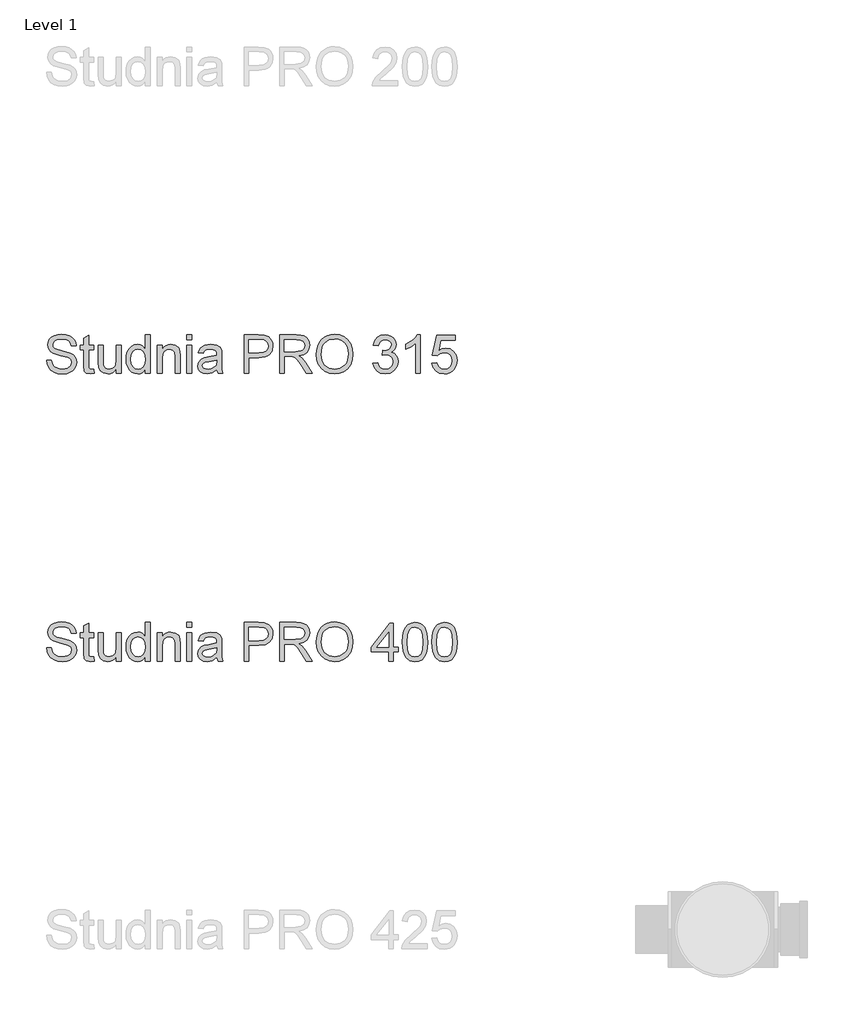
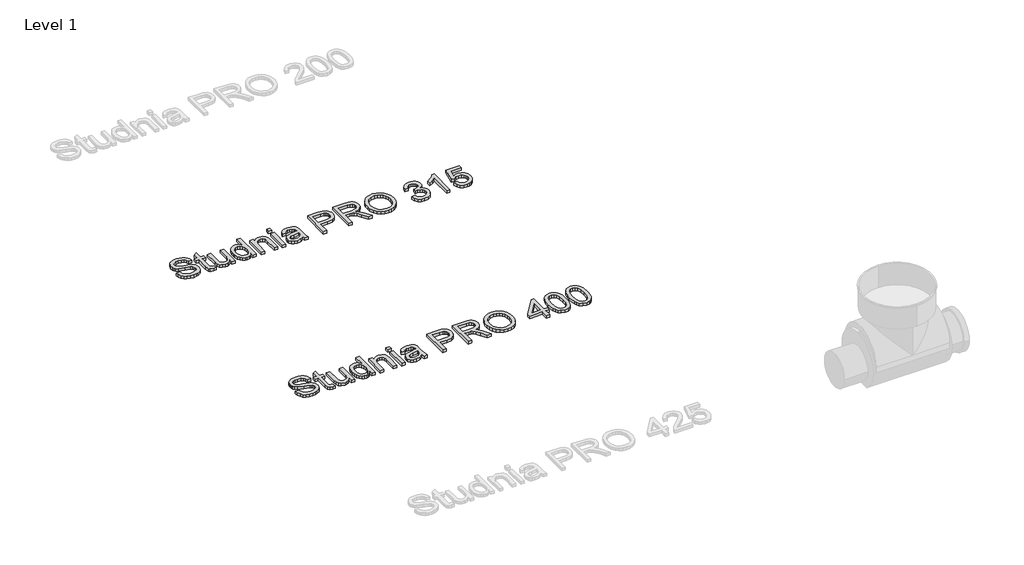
# One storey, part 7 of 8: 2 proxies.
"""IFC4 building model written with IfcOpenShell, lengths in millimetres."""

from ifc_helpers import new_model, si_unit, origin, origin_with_axes, place, context, project, spatial, polyline, outline, extrude, element, save

model = new_model("IFC4")

# Units and contexts
model_context = context("Model", 3, world=origin())
ifc_project = project(units=[si_unit("LENGTHUNIT", "METRE", prefix="MILLI")], contexts=[model_context])

# Site, building, storey
site = spatial("IfcSite", under=ifc_project)
building = spatial("IfcBuilding", under=site)
storey = spatial("IfcBuildingStorey", under=building, Name="Level 1", Elevation=0.0)

# Proxies
placement = place(None, origin())
element("IfcBuildingElementProxy", 1, Name="200mm Arial", ObjectType="200mm Arial", at=placement, inside=storey, context=model_context, shape_type="SweptSolid", body=[
    extrude(outline(polyline([(-16840.1100864, -1744.8858597), (-16814.9960089, -1744.8858597), (-16806.902605, -1770.0244627), (-16798.7724129, -1778.9149443), (-16787.1350791, -1785.9169649), (-16772.9103087, -1790.4603076), (-16757.0178065, -1791.9747551), (-16730.7755575, -1787.3884929), (-16713.8284602, -1774.7824032), (-16708.2611794, -1757.9334078), (-16712.4305087, -1742.2616348), (-16718.7826044, -1736.0628232), (-16729.5002332, -1730.857293), (-16766.0677036, -1721.2678356), (-16805.431077, -1708.8824751), (-16817.9329335, -1700.433452), (-16826.7927582, -1690.1940698), (-16832.0718649, -1678.3850577), (-16833.8315671, -1665.227145), (-16831.6549319, -1650.5179966), (-16825.1250265, -1636.8021295), (-16814.4135291, -1625.1770585), (-16799.6921179, -1616.7402981), (-16782.0215194, -1611.6083442), (-16762.46246, -1609.897693), (-16741.2724571, -1611.688052), (-16722.7312045, -1617.0591291), (-16707.5008899, -1625.9005598), (-16696.2437009, -1638.1019793), (-16689.1190529, -1652.9030982), (-16686.2863615, -1669.5436271), (-16711.4004391, -1669.5436271), (-16716.0112267, -1654.5585672), (-16725.6252095, -1643.7428365), (-16740.6470577, -1637.194537), (-16761.4814413, -1635.0117705), (-16782.8063343, -1637.1700115), (-16797.435775, -1643.6447347), (-16805.8970609, -1653.1728783), (-16808.7174895, -1664.491381), (-16806.718664, -1674.1421521), (-16800.7221875, -1681.9044622), (-16786.5464679, -1688.8451691), (-16759.7156078, -1695.9330289), (-16715.2754628, -1708.5391186), (-16700.9587218, -1717.6503293), (-16690.9707256, -1728.8952557), (-16685.1030078, -1742.1512702), (-16683.1471018, -1757.2957457), (-16685.3973134, -1772.7774463), (-16692.147948, -1787.339442), (-16703.1230942, -1799.8719553), (-16718.0468404, -1809.2652089), (-16735.9933504, -1815.1329267), (-16756.0367878, -1817.0888326), (-16780.6419619, -1814.9796425), (-16800.8938658, -1808.6520722), (-16817.0254912, -1798.0815962), (-16829.2698303, -1783.2436891), (-16837.1302423, -1765.1684204), (-16840.1100864, -1744.8858597)])), origin_with_axes(), (0.0, 0.0, 1.0), 20.0),
    extrude(outline(polyline([(-16595.2478305, -1793.0048247), (-16592.1085708, -1814.6853369), (-16610.895078, -1817.0888326), (-16631.9379281, -1812.9195034), (-16642.4348277, -1801.9811454), (-16645.4759855, -1773.4825535), (-16645.4759855, -1691.518445), (-16664.3115437, -1691.518445), (-16664.3115437, -1666.4043674), (-16645.4759855, -1666.4043674), (-16645.4759855, -1630.5481356), (-16620.361908, -1615.7838049), (-16620.361908, -1666.4043674), (-16595.2478305, -1666.4043674), (-16595.2478305, -1691.518445), (-16620.361908, -1691.518445), (-16620.361908, -1772.7467895), (-16619.0375328, -1785.6962357), (-16614.7455762, -1790.2824979), (-16606.1861884, -1791.9747551), (-16595.2478305, -1793.0048247)])), origin_with_axes(), (0.0, 0.0, 1.0), 20.0),
    extrude(outline(polyline([(-16475.9559622, -1813.949573), (-16475.9559622, -1788.5902408), (-16485.0426474, -1801.0583747), (-16495.6253862, -1809.9641847), (-16507.7041783, -1815.3076707), (-16521.279024, -1817.0888326), (-16544.8970481, -1812.0856375), (-16561.1819577, -1799.5285987), (-16568.6622249, -1781.0363971), (-16570.1337529, -1757.6881532), (-16570.1337529, -1666.4043674), (-16545.0196754, -1666.4043674), (-16545.0196754, -1745.8668784), (-16543.4990965, -1771.4714652), (-16539.8386706, -1780.0124589), (-16533.5662826, -1786.5055761), (-16514.8533518, -1791.9747551), (-16493.8840781, -1786.3829488), (-16485.5270254, -1779.779467), (-16480.0271896, -1771.1526342), (-16475.9559622, -1743.1690771), (-16475.9559622, -1666.4043674), (-16450.8418846, -1666.4043674), (-16450.8418846, -1813.949573), (-16475.9559622, -1813.949573)])), origin_with_axes(), (0.0, 0.0, 1.0), 20.0),
    extrude(outline(polyline([(-16325.2714969, -1813.949573), (-16325.2714969, -1790.2579725), (-16332.7854867, -1801.9964738), (-16341.8875004, -1810.3811176), (-16352.577538, -1815.4119039), (-16364.8555996, -1817.0888326), (-16381.0914583, -1814.6608115), (-16395.9538909, -1807.376748), (-16408.5354552, -1795.7455456), (-16417.9287088, -1780.2761077), (-16423.7780325, -1761.5938337), (-16425.7278071, -1740.324123), (-16423.9313167, -1719.3180611), (-16418.5418454, -1700.3476128), (-16409.5655248, -1684.4918989), (-16397.008486, -1672.8300396), (-16381.821091, -1665.6563407), (-16364.9537015, -1663.2651077), (-16352.6664428, -1664.975759), (-16341.8016612, -1670.1077128), (-16325.2714969, -1687.8886759), (-16325.2714969, -1613.0369527), (-16300.1574194, -1613.0369527), (-16300.1574194, -1813.949573), (-16325.2714969, -1813.949573)]), holes=[polyline([(-16400.6137295, -1740.2260211), (-16397.7810382, -1762.9427343), (-16389.2829641, -1779.0988853), (-16376.9343918, -1788.7557877), (-16362.5502058, -1791.9747551), (-16348.1721511, -1788.9029404), (-16336.1362785, -1779.6874965), (-16327.9876923, -1764.1567449), (-16325.2714969, -1742.1390075), (-16328.0367433, -1718.0672623), (-16336.3324823, -1701.3776824), (-16348.6749232, -1691.6288096), (-16363.5802754, -1688.3791853), (-16378.1116142, -1691.5000509), (-16390.0187281, -1700.8626476), (-16397.9649792, -1716.9452222), (-16400.6137295, -1740.2260211)])]), origin_with_axes(), (0.0, 0.0, 1.0), 20.0),
    extrude(outline(polyline([(-16262.4863031, -1813.949573), (-16262.4863031, -1666.4043674), (-16237.3722255, -1666.4043674), (-16237.3722255, -1687.0057592), (-16228.6472909, -1676.6192242), (-16218.1687854, -1669.2002706), (-16205.9367091, -1664.7488984), (-16191.9510619, -1663.2651077), (-16168.2349359, -1668.0475737), (-16152.0481281, -1680.6046124), (-16144.51881, -1699.0722886), (-16143.1944348, -1723.3525003), (-16143.1944348, -1813.949573), (-16168.3085123, -1813.949573), (-16168.3085123, -1726.7370146), (-16171.2025174, -1704.5169421), (-16181.4296368, -1692.7692437), (-16198.6710397, -1688.3791853), (-16213.3801881, -1690.8439946), (-16225.9188328, -1698.2384227), (-16234.5088774, -1712.5245069), (-16237.3722255, -1735.6642844), (-16237.3722255, -1813.949573), (-16262.4863031, -1813.949573)])), origin_with_axes(), (0.0, 0.0, 1.0), 20.0),
    extrude(outline(polyline([(-16108.6625782, -1638.1510302), (-16108.6625782, -1613.0369527), (-16083.5485006, -1613.0369527), (-16083.5485006, -1638.1510302), (-16108.6625782, -1638.1510302)])), origin_with_axes(), (0.0, 0.0, 1.0), 20.0),
    extrude(outline(polyline([(-16108.6625782, -1813.949573), (-16108.6625782, -1666.4043674), (-16083.5485006, -1666.4043674), (-16083.5485006, -1813.949573), (-16108.6625782, -1813.949573)])), origin_with_axes(), (0.0, 0.0, 1.0), 20.0),
    extrude(outline(polyline([(-15951.6995936, -1795.1140148), (-15976.0533816, -1812.1346884), (-16002.9578182, -1817.0888326), (-16023.945486, -1814.1089885), (-16039.4271867, -1805.169456), (-16048.9737245, -1791.5946104), (-16052.1559037, -1774.7088268), (-16047.3489123, -1754.8431991), (-16034.7182971, -1740.4222249), (-16017.1335378, -1732.1816682), (-15995.4039746, -1728.4047463), (-15951.8467464, -1719.7717822), (-15951.6995936, -1714.1799759), (-15953.4286389, -1702.9718377), (-15958.6157751, -1695.6387233), (-15970.2163207, -1690.1940698), (-15986.378603, -1688.3791853), (-16001.3391374, -1689.5870645), (-16011.7869861, -1693.2107021), (-16018.9116341, -1699.9122858), (-16023.9025665, -1710.3540031), (-16049.016644, -1707.2147434), (-16038.1518624, -1682.6892771), (-16028.8934989, -1674.4364576), (-16016.2751464, -1668.3173538), (-15983.1412414, -1663.2651077), (-15952.7051377, -1667.7287426), (-15935.5127858, -1678.9368807), (-15927.8117893, -1695.9820798), (-15926.585516, -1717.9568977), (-15926.585516, -1749.2023418), (-15925.3101918, -1792.8331464), (-15920.3069966, -1813.949573), (-15945.4210742, -1813.949573), (-15951.6995936, -1795.1140148)]), holes=[polyline([(-15951.6995936, -1744.8858597), (-15992.215664, -1752.5868562), (-16013.8225998, -1756.6580836), (-16023.6082609, -1763.2799595), (-16027.0418262, -1772.9429932), (-16025.1717594, -1780.4109977), (-16019.5615589, -1786.5301016), (-16010.3338522, -1790.6135917), (-15997.6112666, -1791.9747551), (-15984.1222601, -1790.4725703), (-15972.2028834, -1785.9660159), (-15955.8198719, -1771.4224143), (-15951.8467464, -1751.998245), (-15951.6995936, -1744.8858597)])]), origin_with_axes(), (0.0, 0.0, 1.0), 20.0),
    extrude(outline(polyline([(-15810.4329074, -1813.949573), (-15810.4329074, -1613.0369527), (-15735.9735916, -1613.0369527), (-15705.9544208, -1614.949939), (-15681.5515818, -1624.3431926), (-15672.6794943, -1632.6695885), (-15665.732656, -1643.767362), (-15661.2444956, -1656.8578296), (-15659.7484422, -1671.1623079), (-15663.7890128, -1694.8416456), (-15675.9107245, -1714.5723833), (-15685.6182107, -1722.3408248), (-15698.5783868, -1727.8897115), (-15734.2568089, -1732.328821), (-15785.3188299, -1732.328821), (-15785.3188299, -1813.949573), (-15810.4329074, -1813.949573)]), holes=[polyline([(-15785.3188299, -1707.2147434), (-15732.785281, -1707.2147434), (-15710.5161575, -1704.9093496), (-15695.8008777, -1697.9931681), (-15687.5971092, -1686.8953946), (-15684.8625197, -1672.0452247), (-15686.4750691, -1660.7635102), (-15691.3127174, -1651.2476292), (-15698.7745905, -1644.086193), (-15708.2598146, -1639.8678128), (-15733.3738922, -1638.1510302), (-15785.3188299, -1638.1510302), (-15785.3188299, -1707.2147434)])]), origin_with_axes(), (0.0, 0.0, 1.0), 20.0),
    extrude(outline(polyline([(-15625.2165856, -1813.949573), (-15625.2165856, -1613.0369527), (-15538.6416894, -1613.0369527), (-15515.3731532, -1614.3919847), (-15498.44445, -1618.4570807), (-15486.0713523, -1625.9618734), (-15476.4696322, -1637.6359954), (-15470.3076088, -1652.1121519), (-15468.253601, -1668.0230482), (-15471.6565094, -1687.8150995), (-15481.8652348, -1704.2226365), (-15499.1863454, -1716.2523778), (-15523.9264096, -1722.9110419), (-15509.6525882, -1733.6531961), (-15489.2964511, -1759.5030377), (-15455.7946641, -1813.949573), (-15484.979969, -1813.949573), (-15511.1241161, -1772.3053311), (-15530.0087252, -1744.7387069), (-15543.2770025, -1731.7156843), (-15555.2209046, -1726.9332184), (-15569.7890316, -1726.0503016), (-15600.102508, -1726.0503016), (-15600.102508, -1813.949573), (-15625.2165856, -1813.949573)]), holes=[polyline([(-15600.102508, -1700.936224), (-15543.8901392, -1700.936224), (-15515.219869, -1697.3800314), (-15505.7898272, -1692.756981), (-15498.9349594, -1686.000215), (-15493.3676785, -1668.9550159), (-15496.0225602, -1656.7045455), (-15503.9872054, -1646.8330453), (-15517.6908098, -1640.321534), (-15537.5625689, -1638.1510302), (-15600.102508, -1638.1510302), (-15600.102508, -1700.936224)])]), origin_with_axes(), (0.0, 0.0, 1.0), 20.0),
    extrude(outline(polyline([(-15433.7217444, -1716.1420132), (-15432.0478813, -1692.5761057), (-15427.026292, -1671.7141309), (-15418.6569767, -1653.5560887), (-15406.9399351, -1638.1019793), (-15392.5772089, -1625.762604), (-15376.2708394, -1616.9487645), (-15358.0208268, -1611.6604609), (-15337.8271709, -1609.897693), (-15311.4745574, -1613.2086309), (-15287.8442705, -1623.1414448), (-15268.2238975, -1638.9971588), (-15253.9010251, -1660.0767971), (-15245.1454336, -1685.3625529), (-15242.2269031, -1713.8366193), (-15245.2987178, -1742.6908305), (-15254.5141618, -1768.3322056), (-15269.3643316, -1789.4486321), (-15289.340324, -1804.7279976), (-15312.7682757, -1813.9986239), (-15337.9743237, -1817.0888326), (-15364.7316075, -1813.6736615), (-15388.4967844, -1803.4281479), (-15408.0681066, -1787.2781283), (-15422.2438261, -1766.149439), (-15430.8522648, -1741.8385705), (-15433.7217444, -1716.1420132)]), holes=[polyline([(-15408.6076668, -1716.3872678), (-15403.5860776, -1747.816653), (-15388.5213099, -1771.7657708), (-15365.8781731, -1786.922509), (-15338.1214765, -1791.9747551), (-15309.9601098, -1786.8734581), (-15287.2801848, -1771.5695671), (-15278.556783, -1760.2970496), (-15272.3257817, -1746.8846852), (-15267.3409807, -1713.6404156), (-15269.4746962, -1691.4080804), (-15275.875843, -1672.1923775), (-15286.3788739, -1656.4776849), (-15300.8182422, -1644.7483806), (-15318.2374547, -1637.445923), (-15337.6800181, -1635.0117705), (-15364.6948193, -1639.7022659), (-15387.6629186, -1653.7737523), (-15396.8262459, -1664.7228401), (-15403.3714798, -1678.808122), (-15408.6076668, -1716.3872678)])]), origin_with_axes(), (0.0, 0.0, 1.0), 20.0),
    extrude(outline(polyline([(-15138.6313333, -1760.5821582), (-15113.5172558, -1757.4428985), (-15107.8947926, -1773.2250361), (-15099.6603673, -1783.8813512), (-15088.4093096, -1789.9514041), (-15073.7369493, -1791.9747551), (-15056.520072, -1789.1911147), (-15043.2272692, -1780.8401934), (-15034.7291951, -1768.3812565), (-15031.8965038, -1753.2735692), (-15034.7046697, -1738.9323028), (-15043.1291673, -1727.3011004), (-15055.8824098, -1719.5939726), (-15071.6768102, -1717.02493), (-15089.286095, -1719.7717822), (-15086.4901918, -1694.6577047), (-15082.4680154, -1694.9520102), (-15067.4216418, -1693.1493885), (-15053.9694235, -1687.7415231), (-15044.478068, -1678.5935242), (-15041.3142828, -1665.5705016), (-15043.6074139, -1654.7241141), (-15050.4868072, -1645.925603), (-15060.9837068, -1640.0946734), (-15074.1293568, -1638.1510302), (-15087.2995322, -1640.1130675), (-15098.066212, -1645.9991794), (-15105.9266239, -1655.809366), (-15110.3779961, -1669.5436271), (-15135.4920736, -1666.4043674), (-15128.0976455, -1643.8532011), (-15114.9397328, -1627.0164685), (-15096.9380405, -1616.5318316), (-15075.0122736, -1613.0369527), (-15059.2240046, -1614.7598667), (-15044.7233227, -1619.9286087), (-15032.4973777, -1628.0833263), (-15023.5333197, -1638.7641669), (-15018.0334839, -1651.0698196), (-15016.2002053, -1664.0989736), (-15017.9415134, -1676.2390794), (-15023.1654377, -1687.2510138), (-15031.7984019, -1696.6320047), (-15043.7668295, -1703.87928), (-15028.0460055, -1710.2313758), (-15016.396409, -1721.0471064), (-15009.1859219, -1735.7378608), (-15006.7824262, -1753.7150276), (-15011.5894176, -1778.191443), (-15026.0103918, -1798.645682), (-15047.7767432, -1812.478045), (-15074.6198661, -1817.0888326), (-15098.9000778, -1813.1524953), (-15118.6676037, -1801.3434833), (-15132.4141276, -1783.2804773), (-15138.6313333, -1760.5821582)])), origin_with_axes(), (0.0, 0.0, 1.0), 20.0),
    extrude(outline(polyline([(-14890.6298176, -1813.949573), (-14915.7438951, -1813.949573), (-14915.7438951, -1657.3789958), (-14939.5335975, -1674.3260931), (-14965.9720502, -1687.0057592), (-14965.9720502, -1663.2651077), (-14929.1593252, -1639.769711), (-14915.6887128, -1626.1948653), (-14906.8166254, -1613.0369527), (-14890.6298176, -1613.0369527), (-14890.6298176, -1813.949573)])), origin_with_axes(), (0.0, 0.0, 1.0), 20.0),
    extrude(outline(polyline([(-14830.9838835, -1760.5821582), (-14805.8698059, -1757.4428985), (-14801.2590182, -1772.5199289), (-14793.2146653, -1783.3172655), (-14781.7735352, -1789.8103827), (-14766.9724163, -1791.9747551), (-14748.970724, -1788.9642541), (-14735.4817175, -1779.9327511), (-14727.0572198, -1765.9225785), (-14724.2490539, -1747.9760685), (-14726.8794102, -1731.0780222), (-14734.770479, -1718.1531014), (-14747.983574, -1709.9493329), (-14766.5800088, -1707.2147434), (-14788.6284031, -1711.5802764), (-14802.7305462, -1722.9110419), (-14827.8446238, -1719.7717822), (-14805.8698059, -1616.1762123), (-14708.5527555, -1616.1762123), (-14708.5527555, -1641.2902899), (-14785.5627198, -1641.2902899), (-14796.304874, -1696.619742), (-14778.3644954, -1685.7304349), (-14759.5657255, -1682.1006659), (-14736.1009855, -1686.601089), (-14716.6216339, -1700.1023582), (-14703.5066408, -1720.6792244), (-14699.1349764, -1746.4064386), (-14703.0713137, -1771.5205162), (-14714.8803258, -1793.0048247), (-14725.3159117, -1803.5415782), (-14737.4928057, -1811.0678307), (-14751.4110079, -1815.5835821), (-14767.0705182, -1817.0888326), (-14791.7370059, -1813.2199403), (-14811.3880358, -1801.6132634), (-14824.8586482, -1783.6177025), (-14830.9838835, -1760.5821582)])), origin_with_axes(), (0.0, 0.0, 1.0), 20.0),
])
element("IfcBuildingElementProxy", 2, Name="200mm Arial", ObjectType="200mm Arial", at=placement, inside=storey, context=model_context, shape_type="SweptSolid", body=[
    extrude(outline(polyline([(-16840.1100864, -3244.8858597), (-16814.9960089, -3244.8858597), (-16806.902605, -3270.0244627), (-16798.7724129, -3278.9149443), (-16787.1350791, -3285.9169649), (-16772.9103087, -3290.4603076), (-16757.0178065, -3291.9747551), (-16730.7755575, -3287.3884929), (-16713.8284602, -3274.7824032), (-16708.2611794, -3257.9334078), (-16712.4305087, -3242.2616348), (-16718.7826044, -3236.0628232), (-16729.5002332, -3230.857293), (-16766.0677036, -3221.2678356), (-16805.431077, -3208.8824751), (-16817.9329335, -3200.433452), (-16826.7927582, -3190.1940698), (-16832.0718649, -3178.3850577), (-16833.8315671, -3165.227145), (-16831.6549319, -3150.5179966), (-16825.1250265, -3136.8021295), (-16814.4135291, -3125.1770585), (-16799.6921179, -3116.7402981), (-16782.0215194, -3111.6083442), (-16762.46246, -3109.897693), (-16741.2724571, -3111.688052), (-16722.7312045, -3117.0591291), (-16707.5008899, -3125.9005598), (-16696.2437009, -3138.1019793), (-16689.1190529, -3152.9030982), (-16686.2863615, -3169.5436271), (-16711.4004391, -3169.5436271), (-16716.0112267, -3154.5585672), (-16725.6252095, -3143.7428365), (-16740.6470577, -3137.194537), (-16761.4814413, -3135.0117705), (-16782.8063343, -3137.1700115), (-16797.435775, -3143.6447347), (-16805.8970609, -3153.1728783), (-16808.7174895, -3164.491381), (-16806.718664, -3174.1421521), (-16800.7221875, -3181.9044622), (-16786.5464679, -3188.8451691), (-16759.7156078, -3195.9330289), (-16715.2754628, -3208.5391186), (-16700.9587218, -3217.6503293), (-16690.9707256, -3228.8952557), (-16685.1030078, -3242.1512702), (-16683.1471018, -3257.2957457), (-16685.3973134, -3272.7774463), (-16692.147948, -3287.339442), (-16703.1230942, -3299.8719553), (-16718.0468404, -3309.2652089), (-16735.9933504, -3315.1329267), (-16756.0367878, -3317.0888326), (-16780.6419619, -3314.9796425), (-16800.8938658, -3308.6520722), (-16817.0254912, -3298.0815962), (-16829.2698303, -3283.2436891), (-16837.1302423, -3265.1684204), (-16840.1100864, -3244.8858597)])), origin_with_axes(), (0.0, 0.0, 1.0), 20.0),
    extrude(outline(polyline([(-16595.2478305, -3293.0048247), (-16592.1085708, -3314.6853369), (-16610.895078, -3317.0888326), (-16631.9379281, -3312.9195034), (-16642.4348277, -3301.9811454), (-16645.4759855, -3273.4825535), (-16645.4759855, -3191.518445), (-16664.3115437, -3191.518445), (-16664.3115437, -3166.4043674), (-16645.4759855, -3166.4043674), (-16645.4759855, -3130.5481356), (-16620.361908, -3115.7838049), (-16620.361908, -3166.4043674), (-16595.2478305, -3166.4043674), (-16595.2478305, -3191.518445), (-16620.361908, -3191.518445), (-16620.361908, -3272.7467895), (-16619.0375328, -3285.6962357), (-16614.7455762, -3290.2824979), (-16606.1861884, -3291.9747551), (-16595.2478305, -3293.0048247)])), origin_with_axes(), (0.0, 0.0, 1.0), 20.0),
    extrude(outline(polyline([(-16475.9559622, -3313.949573), (-16475.9559622, -3288.5902408), (-16485.0426474, -3301.0583747), (-16495.6253862, -3309.9641847), (-16507.7041783, -3315.3076707), (-16521.279024, -3317.0888326), (-16544.8970481, -3312.0856375), (-16561.1819577, -3299.5285987), (-16568.6622249, -3281.0363971), (-16570.1337529, -3257.6881532), (-16570.1337529, -3166.4043674), (-16545.0196754, -3166.4043674), (-16545.0196754, -3245.8668784), (-16543.4990965, -3271.4714652), (-16539.8386706, -3280.0124589), (-16533.5662826, -3286.5055761), (-16514.8533518, -3291.9747551), (-16493.8840781, -3286.3829488), (-16485.5270254, -3279.779467), (-16480.0271896, -3271.1526342), (-16475.9559622, -3243.1690771), (-16475.9559622, -3166.4043674), (-16450.8418846, -3166.4043674), (-16450.8418846, -3313.949573), (-16475.9559622, -3313.949573)])), origin_with_axes(), (0.0, 0.0, 1.0), 20.0),
    extrude(outline(polyline([(-16325.2714969, -3313.949573), (-16325.2714969, -3290.2579725), (-16332.7854867, -3301.9964738), (-16341.8875004, -3310.3811176), (-16352.577538, -3315.4119039), (-16364.8555996, -3317.0888326), (-16381.0914583, -3314.6608115), (-16395.9538909, -3307.376748), (-16408.5354552, -3295.7455456), (-16417.9287088, -3280.2761077), (-16423.7780325, -3261.5938337), (-16425.7278071, -3240.324123), (-16423.9313167, -3219.3180611), (-16418.5418454, -3200.3476128), (-16409.5655248, -3184.4918989), (-16397.008486, -3172.8300396), (-16381.821091, -3165.6563407), (-16364.9537015, -3163.2651077), (-16352.6664428, -3164.975759), (-16341.8016612, -3170.1077128), (-16325.2714969, -3187.8886759), (-16325.2714969, -3113.0369527), (-16300.1574194, -3113.0369527), (-16300.1574194, -3313.949573), (-16325.2714969, -3313.949573)]), holes=[polyline([(-16400.6137295, -3240.2260211), (-16397.7810382, -3262.9427343), (-16389.2829641, -3279.0988853), (-16376.9343918, -3288.7557877), (-16362.5502058, -3291.9747551), (-16348.1721511, -3288.9029404), (-16336.1362785, -3279.6874965), (-16327.9876923, -3264.1567449), (-16325.2714969, -3242.1390075), (-16328.0367433, -3218.0672623), (-16336.3324823, -3201.3776824), (-16348.6749232, -3191.6288096), (-16363.5802754, -3188.3791853), (-16378.1116142, -3191.5000509), (-16390.0187281, -3200.8626476), (-16397.9649792, -3216.9452222), (-16400.6137295, -3240.2260211)])]), origin_with_axes(), (0.0, 0.0, 1.0), 20.0),
    extrude(outline(polyline([(-16262.4863031, -3313.949573), (-16262.4863031, -3166.4043674), (-16237.3722255, -3166.4043674), (-16237.3722255, -3187.0057592), (-16228.6472909, -3176.6192242), (-16218.1687854, -3169.2002706), (-16205.9367091, -3164.7488984), (-16191.9510619, -3163.2651077), (-16168.2349359, -3168.0475737), (-16152.0481281, -3180.6046124), (-16144.51881, -3199.0722886), (-16143.1944348, -3223.3525003), (-16143.1944348, -3313.949573), (-16168.3085123, -3313.949573), (-16168.3085123, -3226.7370146), (-16171.2025174, -3204.5169421), (-16181.4296368, -3192.7692437), (-16198.6710397, -3188.3791853), (-16213.3801881, -3190.8439946), (-16225.9188328, -3198.2384227), (-16234.5088774, -3212.5245069), (-16237.3722255, -3235.6642844), (-16237.3722255, -3313.949573), (-16262.4863031, -3313.949573)])), origin_with_axes(), (0.0, 0.0, 1.0), 20.0),
    extrude(outline(polyline([(-16108.6625782, -3138.1510302), (-16108.6625782, -3113.0369527), (-16083.5485006, -3113.0369527), (-16083.5485006, -3138.1510302), (-16108.6625782, -3138.1510302)])), origin_with_axes(), (0.0, 0.0, 1.0), 20.0),
    extrude(outline(polyline([(-16108.6625782, -3313.949573), (-16108.6625782, -3166.4043674), (-16083.5485006, -3166.4043674), (-16083.5485006, -3313.949573), (-16108.6625782, -3313.949573)])), origin_with_axes(), (0.0, 0.0, 1.0), 20.0),
    extrude(outline(polyline([(-15951.6995936, -3295.1140148), (-15976.0533816, -3312.1346884), (-16002.9578182, -3317.0888326), (-16023.945486, -3314.1089885), (-16039.4271867, -3305.169456), (-16048.9737245, -3291.5946104), (-16052.1559037, -3274.7088268), (-16047.3489123, -3254.8431991), (-16034.7182971, -3240.4222249), (-16017.1335378, -3232.1816682), (-15995.4039746, -3228.4047463), (-15951.8467464, -3219.7717822), (-15951.6995936, -3214.1799759), (-15953.4286389, -3202.9718377), (-15958.6157751, -3195.6387233), (-15970.2163207, -3190.1940698), (-15986.378603, -3188.3791853), (-16001.3391374, -3189.5870645), (-16011.7869861, -3193.2107021), (-16018.9116341, -3199.9122858), (-16023.9025665, -3210.3540031), (-16049.016644, -3207.2147434), (-16038.1518624, -3182.6892771), (-16028.8934989, -3174.4364576), (-16016.2751464, -3168.3173538), (-15983.1412414, -3163.2651077), (-15952.7051377, -3167.7287426), (-15935.5127858, -3178.9368807), (-15927.8117893, -3195.9820798), (-15926.585516, -3217.9568977), (-15926.585516, -3249.2023418), (-15925.3101918, -3292.8331464), (-15920.3069966, -3313.949573), (-15945.4210742, -3313.949573), (-15951.6995936, -3295.1140148)]), holes=[polyline([(-15951.6995936, -3244.8858597), (-15992.215664, -3252.5868562), (-16013.8225998, -3256.6580836), (-16023.6082609, -3263.2799595), (-16027.0418262, -3272.9429932), (-16025.1717594, -3280.4109977), (-16019.5615589, -3286.5301016), (-16010.3338522, -3290.6135917), (-15997.6112666, -3291.9747551), (-15984.1222601, -3290.4725703), (-15972.2028834, -3285.9660159), (-15955.8198719, -3271.4224143), (-15951.8467464, -3251.998245), (-15951.6995936, -3244.8858597)])]), origin_with_axes(), (0.0, 0.0, 1.0), 20.0),
    extrude(outline(polyline([(-15810.4329074, -3313.949573), (-15810.4329074, -3113.0369527), (-15735.9735916, -3113.0369527), (-15705.9544208, -3114.949939), (-15681.5515818, -3124.3431926), (-15672.6794943, -3132.6695885), (-15665.732656, -3143.767362), (-15661.2444956, -3156.8578296), (-15659.7484422, -3171.1623079), (-15663.7890128, -3194.8416456), (-15675.9107245, -3214.5723833), (-15685.6182107, -3222.3408248), (-15698.5783868, -3227.8897115), (-15734.2568089, -3232.328821), (-15785.3188299, -3232.328821), (-15785.3188299, -3313.949573), (-15810.4329074, -3313.949573)]), holes=[polyline([(-15785.3188299, -3207.2147434), (-15732.785281, -3207.2147434), (-15710.5161575, -3204.9093496), (-15695.8008777, -3197.9931681), (-15687.5971092, -3186.8953946), (-15684.8625197, -3172.0452247), (-15686.4750691, -3160.7635102), (-15691.3127174, -3151.2476292), (-15698.7745905, -3144.086193), (-15708.2598146, -3139.8678128), (-15733.3738922, -3138.1510302), (-15785.3188299, -3138.1510302), (-15785.3188299, -3207.2147434)])]), origin_with_axes(), (0.0, 0.0, 1.0), 20.0),
    extrude(outline(polyline([(-15625.2165856, -3313.949573), (-15625.2165856, -3113.0369527), (-15538.6416894, -3113.0369527), (-15515.3731532, -3114.3919847), (-15498.44445, -3118.4570807), (-15486.0713523, -3125.9618734), (-15476.4696322, -3137.6359954), (-15470.3076088, -3152.1121519), (-15468.253601, -3168.0230482), (-15471.6565094, -3187.8150995), (-15481.8652348, -3204.2226365), (-15499.1863454, -3216.2523778), (-15523.9264096, -3222.9110419), (-15509.6525882, -3233.6531961), (-15489.2964511, -3259.5030377), (-15455.7946641, -3313.949573), (-15484.979969, -3313.949573), (-15511.1241161, -3272.3053311), (-15530.0087252, -3244.7387069), (-15543.2770025, -3231.7156843), (-15555.2209046, -3226.9332184), (-15569.7890316, -3226.0503016), (-15600.102508, -3226.0503016), (-15600.102508, -3313.949573), (-15625.2165856, -3313.949573)]), holes=[polyline([(-15600.102508, -3200.936224), (-15543.8901392, -3200.936224), (-15515.219869, -3197.3800314), (-15505.7898272, -3192.756981), (-15498.9349594, -3186.000215), (-15493.3676785, -3168.9550159), (-15496.0225602, -3156.7045455), (-15503.9872054, -3146.8330453), (-15517.6908098, -3140.321534), (-15537.5625689, -3138.1510302), (-15600.102508, -3138.1510302), (-15600.102508, -3200.936224)])]), origin_with_axes(), (0.0, 0.0, 1.0), 20.0),
    extrude(outline(polyline([(-15433.7217444, -3216.1420132), (-15432.0478813, -3192.5761057), (-15427.026292, -3171.7141309), (-15418.6569767, -3153.5560887), (-15406.9399351, -3138.1019793), (-15392.5772089, -3125.762604), (-15376.2708394, -3116.9487645), (-15358.0208268, -3111.6604609), (-15337.8271709, -3109.897693), (-15311.4745574, -3113.2086309), (-15287.8442705, -3123.1414448), (-15268.2238975, -3138.9971588), (-15253.9010251, -3160.0767971), (-15245.1454336, -3185.3625529), (-15242.2269031, -3213.8366193), (-15245.2987178, -3242.6908305), (-15254.5141618, -3268.3322056), (-15269.3643316, -3289.4486321), (-15289.340324, -3304.7279976), (-15312.7682757, -3313.9986239), (-15337.9743237, -3317.0888326), (-15364.7316075, -3313.6736615), (-15388.4967844, -3303.4281479), (-15408.0681066, -3287.2781283), (-15422.2438261, -3266.149439), (-15430.8522648, -3241.8385705), (-15433.7217444, -3216.1420132)]), holes=[polyline([(-15408.6076668, -3216.3872678), (-15403.5860776, -3247.816653), (-15388.5213099, -3271.7657708), (-15365.8781731, -3286.922509), (-15338.1214765, -3291.9747551), (-15309.9601098, -3286.8734581), (-15287.2801848, -3271.5695671), (-15278.556783, -3260.2970496), (-15272.3257817, -3246.8846852), (-15267.3409807, -3213.6404156), (-15269.4746962, -3191.4080804), (-15275.875843, -3172.1923775), (-15286.3788739, -3156.4776849), (-15300.8182422, -3144.7483806), (-15318.2374547, -3137.445923), (-15337.6800181, -3135.0117705), (-15364.6948193, -3139.7022659), (-15387.6629186, -3153.7737523), (-15396.8262459, -3164.7228401), (-15403.3714798, -3178.808122), (-15408.6076668, -3216.3872678)])]), origin_with_axes(), (0.0, 0.0, 1.0), 20.0),
    extrude(outline(polyline([(-15057.0105813, -3313.949573), (-15057.0105813, -3266.8606776), (-15148.0491124, -3266.8606776), (-15148.0491124, -3241.7466), (-15050.7320619, -3116.1762123), (-15031.8965038, -3116.1762123), (-15031.8965038, -3241.7466), (-15006.7824262, -3241.7466), (-15006.7824262, -3266.8606776), (-15031.8965038, -3266.8606776), (-15031.8965038, -3313.949573), (-15057.0105813, -3313.949573)]), holes=[polyline([(-15057.0105813, -3241.7466), (-15057.0105813, -3164.1480245), (-15117.1470248, -3241.7466), (-15057.0105813, -3241.7466)])]), origin_with_axes(), (0.0, 0.0, 1.0), 20.0),
    extrude(outline(polyline([(-14984.8076084, -3215.1119436), (-14982.962067, -3182.9529258), (-14977.425443, -3157.3054194), (-14968.2529186, -3137.7770168), (-14955.4996761, -3123.9753106), (-14939.073745, -3115.7715422), (-14918.8831548, -3113.0369527), (-14903.4075856, -3114.6556334), (-14889.5506971, -3119.5116758), (-14877.9624142, -3127.4150073), (-14869.2926619, -3138.1755557), (-14857.520438, -3167.9004209), (-14852.9587013, -3215.1119436), (-14854.7858485, -3247.0870203), (-14860.2672903, -3272.6732131), (-14869.3846324, -3292.2200098), (-14882.1194808, -3306.0768983), (-14898.5822001, -3314.335849), (-14918.8831548, -3317.0888326), (-14944.978251, -3312.3063667), (-14964.7948278, -3297.9589689), (-14973.5504193, -3282.8298218), (-14979.8044132, -3263.9789353), (-14984.8076084, -3215.1119436)]), holes=[polyline([(-14959.6935308, -3215.0628927), (-14956.7504749, -3254.5672876), (-14947.921307, -3277.4311536), (-14934.775657, -3288.3388547), (-14918.8831548, -3291.9747551), (-14902.9906526, -3288.326592), (-14889.8450027, -3277.3821026), (-14881.0158348, -3254.5059739), (-14878.0727788, -3215.0628927), (-14880.9177329, -3176.4475459), (-14889.4525952, -3153.4058703), (-14902.5737197, -3141.9647402), (-14919.1774604, -3138.1510302), (-14934.8982844, -3141.5110191), (-14947.5288995, -3151.5909857), (-14956.652373, -3176.0674012), (-14959.6935308, -3215.0628927)])]), origin_with_axes(), (0.0, 0.0, 1.0), 20.0),
    extrude(outline(polyline([(-14830.9838835, -3215.1119436), (-14829.1383421, -3182.9529258), (-14823.6017181, -3157.3054194), (-14814.4291937, -3137.7770168), (-14801.6759512, -3123.9753106), (-14785.2500201, -3115.7715422), (-14765.0594299, -3113.0369527), (-14749.5838607, -3114.6556334), (-14735.7269722, -3119.5116758), (-14724.1386893, -3127.4150073), (-14715.468937, -3138.1755557), (-14703.6967131, -3167.9004209), (-14699.1349764, -3215.1119436), (-14700.9621236, -3247.0870203), (-14706.4435654, -3272.6732131), (-14715.5609075, -3292.2200098), (-14728.2957559, -3306.0768983), (-14744.7584752, -3314.335849), (-14765.0594299, -3317.0888326), (-14791.1545261, -3312.3063667), (-14810.9711029, -3297.9589689), (-14819.7266944, -3282.8298218), (-14825.9806883, -3263.9789353), (-14830.9838835, -3215.1119436)]), holes=[polyline([(-14805.8698059, -3215.0628927), (-14802.92675, -3254.5672876), (-14794.0975821, -3277.4311536), (-14780.9519321, -3288.3388547), (-14765.0594299, -3291.9747551), (-14749.1669277, -3288.326592), (-14736.0212778, -3277.3821026), (-14727.1921099, -3254.5059739), (-14724.2490539, -3215.0628927), (-14727.094008, -3176.4475459), (-14735.6288703, -3153.4058703), (-14748.7499948, -3141.9647402), (-14765.3537355, -3138.1510302), (-14781.0745594, -3141.5110191), (-14793.7051746, -3151.5909857), (-14802.8286481, -3176.0674012), (-14805.8698059, -3215.0628927)])]), origin_with_axes(), (0.0, 0.0, 1.0), 20.0),
])

save(model, "model.ifc")
